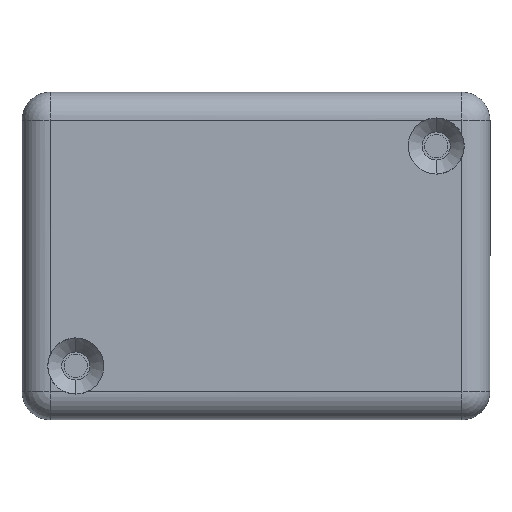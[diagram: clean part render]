
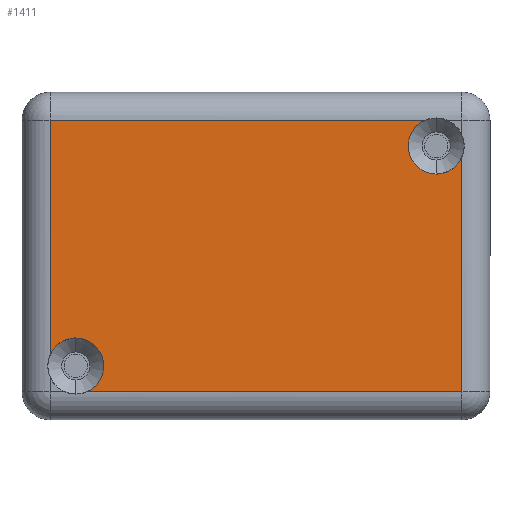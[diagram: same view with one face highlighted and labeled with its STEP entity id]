
A CAD part, front view. The second image highlights one B-rep face of the part: STEP entity #1411.
In plain terms, the highlighted planar face has unit normal (0, -1, 0).
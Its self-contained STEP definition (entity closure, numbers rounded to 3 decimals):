
#68 = DIRECTION ( 'NONE',  ( 0., -1., 0. ) ) ;
#77 = CIRCLE ( 'NONE', #1194, 3. ) ;
#80 = EDGE_CURVE ( 'NONE', #2168, #345, #2212, .T. ) ;
#151 = AXIS2_PLACEMENT_3D ( 'NONE', #2414, #686, #2714 ) ;
#177 = DIRECTION ( 'NONE',  ( 0., -1., 0. ) ) ;
#298 = LINE ( 'NONE', #3150, #3308 ) ;
#340 = FACE_OUTER_BOUND ( 'NONE', #870, .T. ) ;
#345 = VERTEX_POINT ( 'NONE', #794 ) ;
#381 = CARTESIAN_POINT ( 'NONE',  ( 22., -3., -14.5 ) ) ;
#393 = LINE ( 'NONE', #1012, #1178 ) ;
#426 = PLANE ( 'NONE',  #1878 ) ;
#486 = CIRCLE ( 'NONE', #1786, 3. ) ;
#555 = CARTESIAN_POINT ( 'NONE',  ( -22., -3., 14.5 ) ) ;
#585 = ORIENTED_EDGE ( 'NONE', *, *, #3238, .F. ) ;
#681 = AXIS2_PLACEMENT_3D ( 'NONE', #1814, #68, #2093 ) ;
#686 = DIRECTION ( 'NONE',  ( 0., -1., 0. ) ) ;
#710 = DIRECTION ( 'NONE',  ( 0., -1., 0. ) ) ;
#733 = DIRECTION ( 'NONE',  ( 0., 0., -1. ) ) ;
#794 = CARTESIAN_POINT ( 'NONE',  ( 22., -3., 10.551 ) ) ;
#819 = CARTESIAN_POINT ( 'NONE',  ( 22., -3., -14.5 ) ) ;
#859 = DIRECTION ( 'NONE',  ( 0., 0., 1. ) ) ;
#870 = EDGE_LOOP ( 'NONE', ( #3414, #1552, #1211, #585, #2855, #1743, #1264, #1349 ) ) ;
#919 = VERTEX_POINT ( 'NONE', #1021 ) ;
#920 = VERTEX_POINT ( 'NONE', #3028 ) ;
#1012 = CARTESIAN_POINT ( 'NONE',  ( 22., -3., -14.5 ) ) ;
#1021 = CARTESIAN_POINT ( 'NONE',  ( -22., -3., -10.551 ) ) ;
#1045 = EDGE_CURVE ( 'NONE', #2495, #2032, #77, .T. ) ;
#1073 = CARTESIAN_POINT ( 'NONE',  ( -19.25, -3., -8.75 ) ) ;
#1157 = EDGE_CURVE ( 'NONE', #2495, #2168, #393, .T. ) ;
#1178 = VECTOR ( 'NONE', #1565, 1000. ) ;
#1193 = CARTESIAN_POINT ( 'NONE',  ( 18.051, -3., 14.5 ) ) ;
#1194 = AXIS2_PLACEMENT_3D ( 'NONE', #2608, #2629, #2644 ) ;
#1211 = ORIENTED_EDGE ( 'NONE', *, *, #80, .T. ) ;
#1264 = ORIENTED_EDGE ( 'NONE', *, *, #3698, .T. ) ;
#1349 = ORIENTED_EDGE ( 'NONE', *, *, #1948, .F. ) ;
#1411 = ADVANCED_FACE ( 'NONE', ( #340 ), #426, .T. ) ;
#1445 = VECTOR ( 'NONE', #859, 1000. ) ;
#1483 = DIRECTION ( 'NONE',  ( -1., 0., 0. ) ) ;
#1552 = ORIENTED_EDGE ( 'NONE', *, *, #1157, .T. ) ;
#1565 = DIRECTION ( 'NONE',  ( 1., 0., 0. ) ) ;
#1577 = CARTESIAN_POINT ( 'NONE',  ( -18.051, -3., -14.5 ) ) ;
#1718 = VERTEX_POINT ( 'NONE', #555 ) ;
#1743 = ORIENTED_EDGE ( 'NONE', *, *, #1779, .T. ) ;
#1779 = EDGE_CURVE ( 'NONE', #2311, #1718, #2488, .T. ) ;
#1786 = AXIS2_PLACEMENT_3D ( 'NONE', #3369, #177, #1934 ) ;
#1814 = CARTESIAN_POINT ( 'NONE',  ( 19.25, -3., 11.75 ) ) ;
#1878 = AXIS2_PLACEMENT_3D ( 'NONE', #381, #710, #733 ) ;
#1934 = DIRECTION ( 'NONE',  ( 0., 0., -1. ) ) ;
#1948 = EDGE_CURVE ( 'NONE', #2032, #919, #486, .T. ) ;
#2032 = VERTEX_POINT ( 'NONE', #1073 ) ;
#2093 = DIRECTION ( 'NONE',  ( 0., 0., -1. ) ) ;
#2168 = VERTEX_POINT ( 'NONE', #3558 ) ;
#2212 = LINE ( 'NONE', #819, #1445 ) ;
#2279 = DIRECTION ( 'NONE',  ( 0., 0., -1. ) ) ;
#2311 = VERTEX_POINT ( 'NONE', #1193 ) ;
#2362 = EDGE_CURVE ( 'NONE', #2311, #920, #2975, .T. ) ;
#2408 = CARTESIAN_POINT ( 'NONE',  ( 22., -3., 14.5 ) ) ;
#2414 = CARTESIAN_POINT ( 'NONE',  ( 19.25, -3., 11.75 ) ) ;
#2488 = LINE ( 'NONE', #2408, #3167 ) ;
#2495 = VERTEX_POINT ( 'NONE', #1577 ) ;
#2608 = CARTESIAN_POINT ( 'NONE',  ( -19.25, -3., -11.75 ) ) ;
#2629 = DIRECTION ( 'NONE',  ( 0., -1., 0. ) ) ;
#2644 = DIRECTION ( 'NONE',  ( 0., 0., -1. ) ) ;
#2714 = DIRECTION ( 'NONE',  ( 0., 0., -1. ) ) ;
#2855 = ORIENTED_EDGE ( 'NONE', *, *, #2362, .F. ) ;
#2975 = CIRCLE ( 'NONE', #681, 3. ) ;
#3028 = CARTESIAN_POINT ( 'NONE',  ( 19.25, -3., 8.75 ) ) ;
#3150 = CARTESIAN_POINT ( 'NONE',  ( -22., -3., -14.5 ) ) ;
#3167 = VECTOR ( 'NONE', #1483, 1000. ) ;
#3238 = EDGE_CURVE ( 'NONE', #920, #345, #3433, .T. ) ;
#3308 = VECTOR ( 'NONE', #2279, 1000. ) ;
#3369 = CARTESIAN_POINT ( 'NONE',  ( -19.25, -3., -11.75 ) ) ;
#3414 = ORIENTED_EDGE ( 'NONE', *, *, #1045, .F. ) ;
#3433 = CIRCLE ( 'NONE', #151, 3. ) ;
#3558 = CARTESIAN_POINT ( 'NONE',  ( 22., -3., -14.5 ) ) ;
#3698 = EDGE_CURVE ( 'NONE', #1718, #919, #298, .T. ) ;
